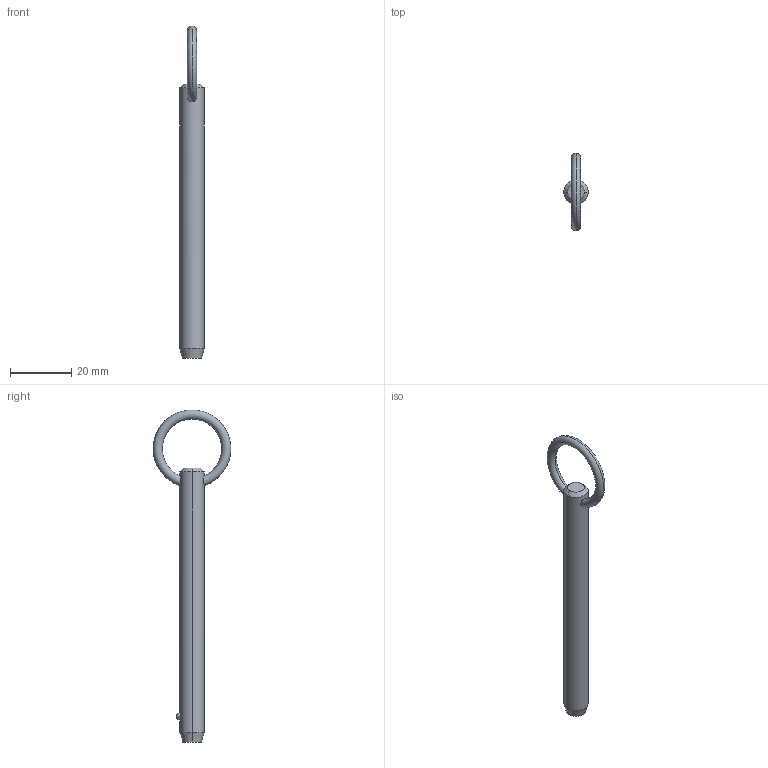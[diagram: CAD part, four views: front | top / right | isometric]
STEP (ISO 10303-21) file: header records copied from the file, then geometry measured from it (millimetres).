
FILE_DESCRIPTION (( 'STEP AP203' ), '1' );
FILE_NAME ('P1250.031-290.step', '2019-07-29T19:52:43', ( '' ), ( '' ), 'SwSTEP 2.0', 'SolidWorks 2017', '' );
FILE_SCHEMA (( 'CONFIG_CONTROL_DESIGN' ));
Length unit declared in the file: millimetre
Products named in the file (1): P1250.031-290
Bounding box: 7.93 x 25.36 x 108.61 mm (x, y, z)
Volume: 4824.3 mm3; surface area: 2866.8 mm2
Topology: 1 solids, 1 shells, 12 faces, 28 edges, 17 vertices
Faces by surface type: cone 4, torus 2, sphere 2, cylinder 2, plane 2
Entity records: 509 total; most frequent: CARTESIAN_POINT 176, DIRECTION 56, ORIENTED_EDGE 48, AXIS2_PLACEMENT_3D 25, EDGE_CURVE 24, VERTEX_POINT 15, EDGE_LOOP 15, FACE_OUTER_BOUND 12
